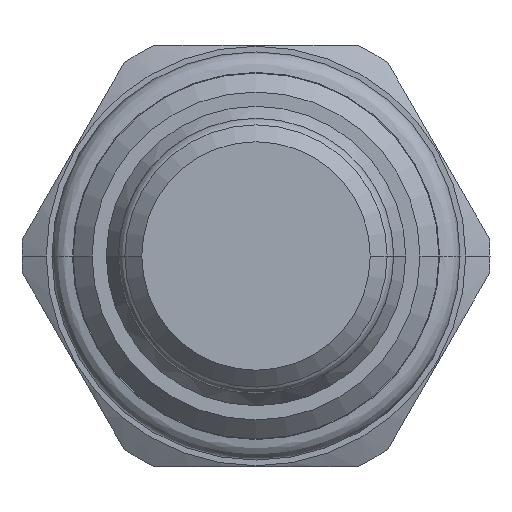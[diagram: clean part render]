
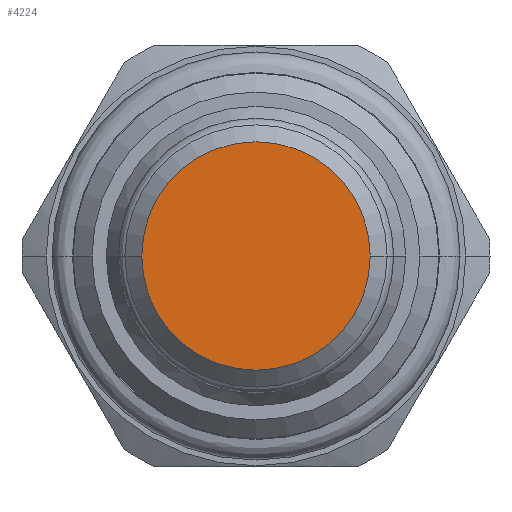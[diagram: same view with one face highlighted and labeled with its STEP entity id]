
A CAD part, front view. The second image highlights one B-rep face of the part: STEP entity #4224.
In plain terms, the highlighted planar face has unit normal (0, -1, 0).
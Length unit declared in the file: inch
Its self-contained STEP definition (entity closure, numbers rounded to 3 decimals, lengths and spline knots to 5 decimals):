
#1837=CARTESIAN_POINT('',(0.,-1.31,0.));
#1838=DIRECTION('',(0.,-1.,0.));
#1839=DIRECTION('',(-1.,0.,0.));
#1840=AXIS2_PLACEMENT_3D('',#1837,#1838,#1839);
#1842=CARTESIAN_POINT('',(0.,-1.31,0.));
#1843=DIRECTION('',(0.,-1.,0.));
#1844=DIRECTION('',(1.,0.,0.));
#1845=AXIS2_PLACEMENT_3D('',#1842,#1843,#1844);
#1899=CARTESIAN_POINT('',(-0.271,-1.31,0.));
#1900=CARTESIAN_POINT('',(0.271,-1.31,0.));
#1901=VERTEX_POINT('',#1899);
#1902=VERTEX_POINT('',#1900);
#4214=CARTESIAN_POINT('',(0.,-1.31,0.));
#4215=DIRECTION('',(0.,1.,0.));
#4216=DIRECTION('',(1.,0.,0.));
#4217=AXIS2_PLACEMENT_3D('',#4214,#4215,#4216);
#4218=PLANE('',#4217);
#4220=ORIENTED_EDGE('',*,*,#4219,.F.);
#4221=ORIENTED_EDGE('',*,*,#4204,.F.);
#4222=EDGE_LOOP('',(#4220,#4221));
#4223=FACE_OUTER_BOUND('',#4222,.F.);
#4224=ADVANCED_FACE('',(#4223),#4218,.F.);
#1841=CIRCLE('',#1840,0.271);
#1846=CIRCLE('',#1845,0.271);
#4204=EDGE_CURVE('',#1902,#1901,#1846,.T.);
#4219=EDGE_CURVE('',#1901,#1902,#1841,.T.);
